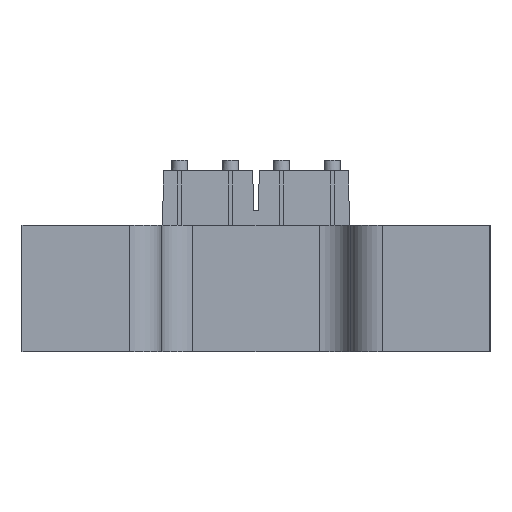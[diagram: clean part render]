
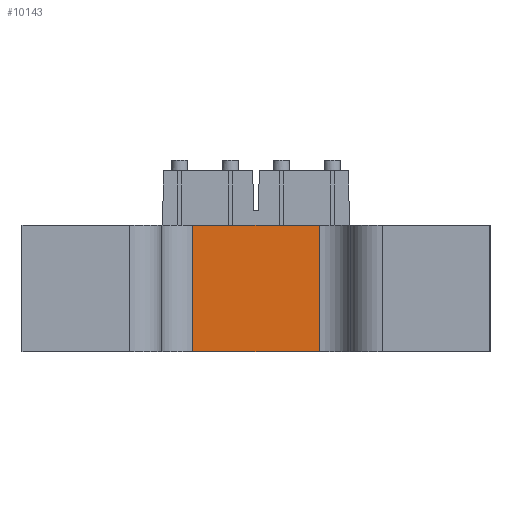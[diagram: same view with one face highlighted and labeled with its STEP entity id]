
A CAD part, left-side view. The second image highlights one B-rep face of the part: STEP entity #10143.
In plain terms, the highlighted planar face has unit normal (-1, 0, 0).
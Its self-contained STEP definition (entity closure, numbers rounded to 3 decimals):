
#10078=CARTESIAN_POINT('Line Origine',(-42.,-10.,-10.)) ;
#10082=CARTESIAN_POINT('Vertex',(-42.,-10.,-20.)) ;
#10084=CARTESIAN_POINT('Vertex',(-42.,-10.,0.)) ;
#10113=CARTESIAN_POINT('Axis2P3D Location',(-42.,15.,0.)) ;
#10118=CARTESIAN_POINT('Line Origine',(-42.,10.,-10.)) ;
#10122=CARTESIAN_POINT('Vertex',(-42.,10.,-20.)) ;
#10124=CARTESIAN_POINT('Vertex',(-42.,10.,0.)) ;
#10127=CARTESIAN_POINT('Line Origine',(-42.,0.,-20.)) ;
#10132=CARTESIAN_POINT('Line Origine',(-42.,0.,0.)) ;
#10079=DIRECTION('Vector Direction',(0.,0.,-1.)) ;
#10114=DIRECTION('Axis2P3D Direction',(1.,0.,0.)) ;
#10115=DIRECTION('Axis2P3D XDirection',(0.,-1.,0.)) ;
#10119=DIRECTION('Vector Direction',(0.,0.,-1.)) ;
#10128=DIRECTION('Vector Direction',(0.,-1.,0.)) ;
#10133=DIRECTION('Vector Direction',(0.,-1.,0.)) ;
#10116=AXIS2_PLACEMENT_3D('Plane Axis2P3D',#10113,#10114,#10115) ;
#10138=ORIENTED_EDGE('',*,*,#10126,.F.) ;
#10139=ORIENTED_EDGE('',*,*,#10131,.T.) ;
#10140=ORIENTED_EDGE('',*,*,#10086,.T.) ;
#10141=ORIENTED_EDGE('',*,*,#10136,.T.) ;
#10080=VECTOR('Line Direction',#10079,1.) ;
#10120=VECTOR('Line Direction',#10119,1.) ;
#10129=VECTOR('Line Direction',#10128,1.) ;
#10134=VECTOR('Line Direction',#10133,1.) ;
#10143=ADVANCED_FACE('PartBody',(#10142),#10117,.F.) ;
#10086=EDGE_CURVE('',#10083,#10085,#10081,.F.) ;
#10126=EDGE_CURVE('',#10123,#10125,#10121,.F.) ;
#10131=EDGE_CURVE('',#10123,#10083,#10130,.T.) ;
#10136=EDGE_CURVE('',#10085,#10125,#10135,.F.) ;
#10137=EDGE_LOOP('',(#10138,#10139,#10140,#10141)) ;
#10142=FACE_OUTER_BOUND('',#10137,.T.) ;
#10081=LINE('Line',#10078,#10080) ;
#10121=LINE('Line',#10118,#10120) ;
#10130=LINE('Line',#10127,#10129) ;
#10135=LINE('Line',#10132,#10134) ;
#10117=PLANE('Plane',#10116) ;
#10083=VERTEX_POINT('',#10082) ;
#10085=VERTEX_POINT('',#10084) ;
#10123=VERTEX_POINT('',#10122) ;
#10125=VERTEX_POINT('',#10124) ;
